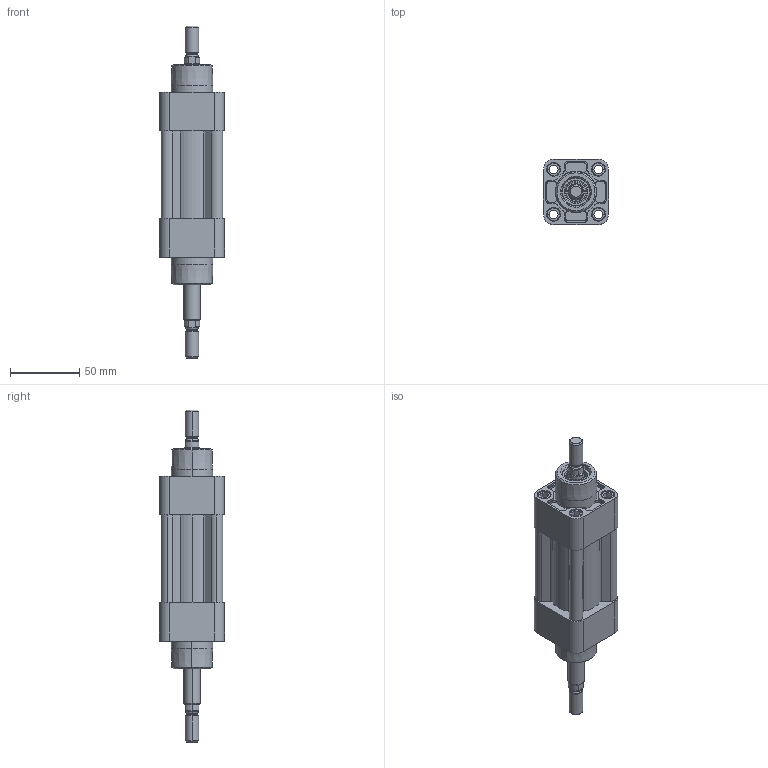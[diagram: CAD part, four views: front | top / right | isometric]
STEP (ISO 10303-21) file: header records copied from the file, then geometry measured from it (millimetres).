
FILE_DESCRIPTION (( 'STEP AP203' ), '1' );
FILE_NAME ('EL0320025G.step', '2014-04-23T14:05:26', ( '' ), ( '' ), 'SwSTEP 2.0', 'SolidWorks 2013', '' );
FILE_SCHEMA (( 'CONFIG_CONTROL_DESIGN' ));
Length unit declared in the file: millimetre
Products named in the file (1): EL0320025G
Bounding box: 47 x 47 x 240 mm (x, y, z)
Surface area: 51597.1 mm2 (no closed solid volume)
Topology: 0 solids, 20 shells, 437 faces, 1217 edges, 808 vertices
Faces by surface type: cylinder 177, plane 174, cone 66, torus 20
Entity records: 14295 total; most frequent: CARTESIAN_POINT 2803, DIRECTION 2567, ORIENTED_EDGE 2152, EDGE_CURVE 1217, AXIS2_PLACEMENT_3D 952, VERTEX_POINT 808, LINE 663, VECTOR 663
